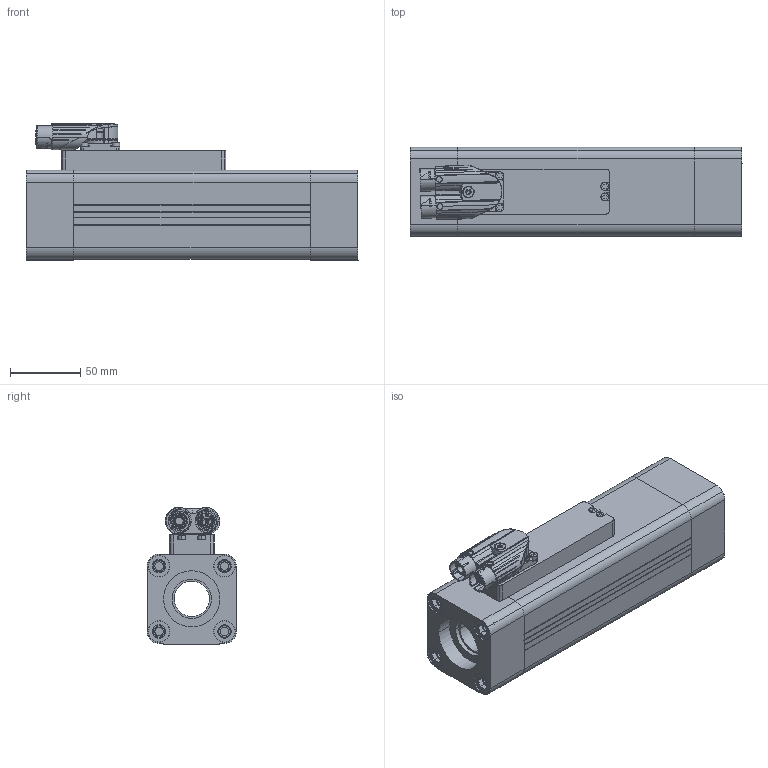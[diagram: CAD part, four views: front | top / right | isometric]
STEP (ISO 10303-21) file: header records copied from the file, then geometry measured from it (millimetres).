
FILE_DESCRIPTION(('STEP AP214'),'1');
FILE_NAME('C:/Users/Autocad/Dropbox/ETT/Drawing/Size 50/Solo corpo/ETT050S02.stp','2014-01-27T08:36:46',(' '),(' '),'Spatial InterOp 3D',' ',' ');
FILE_SCHEMA(('automotive_design'));
Length unit declared in the file: millimetre
Products named in the file (18): ETT050S02; ETH050 2 finto; TAPPO NORMALE; TAPPO; Scatola; Vite M3 lunga; Connettore doppio originale; Vite M3scheda -tappo; cuscinetto; viti parker; riempitivo
Assembly tree (27 placements, depth 2):
  ETT050S02
    ETH050 2 finto
    TAPPO NORMALE
    TAPPO
    Scatola
    Vite M3 lunga  x4
    Connettore doppio originale
    Vite M3scheda -tappo  x4
    cuscinetto  x2
    viti parker
    viti parker
    viti parker
    viti parker
    viti parker
    viti parker
    viti parker
    viti parker
    riempitivo  x4
Bounding box: 236 x 63.85 x 96.95 mm (x, y, z)
Volume: 650280.4 mm3; surface area: 227664.1 mm2
Topology: 26 solids, 1824 shells, 2402 faces, 10592 edges, 10062 vertices
Faces by surface type: cylinder 987, plane 679, bspline 283, torus 253, cone 91, extrusion 68, sphere 41
Entity records: 149772 total; most frequent: CARTESIAN_POINT 60639, DIRECTION 14942, ORIENTED_EDGE 10489, EDGE_CURVE 9698, VERTEX_POINT 9436, AXIS2_PLACEMENT_3D 5829, CIRCLE 3764, VECTOR 3284
